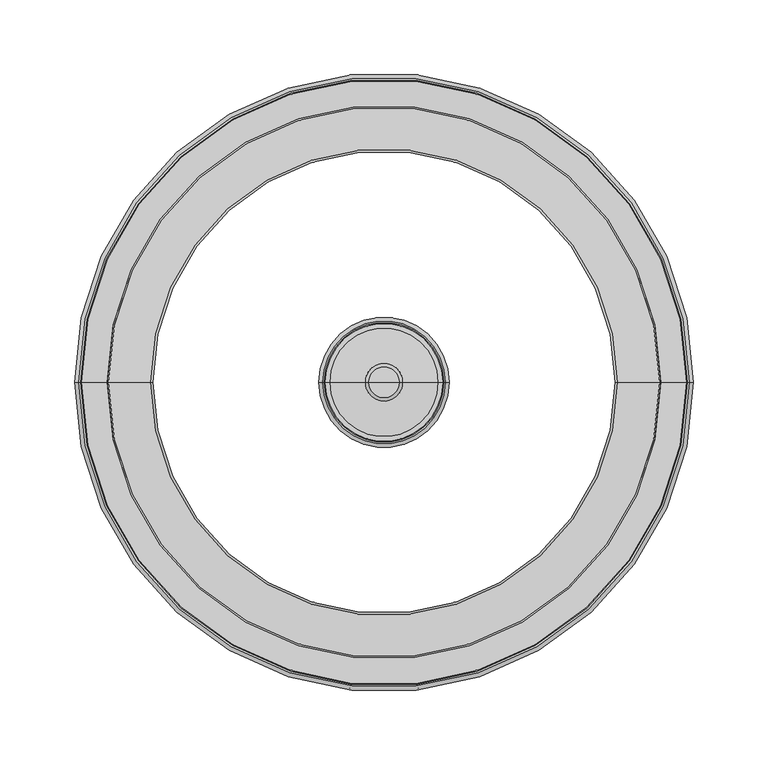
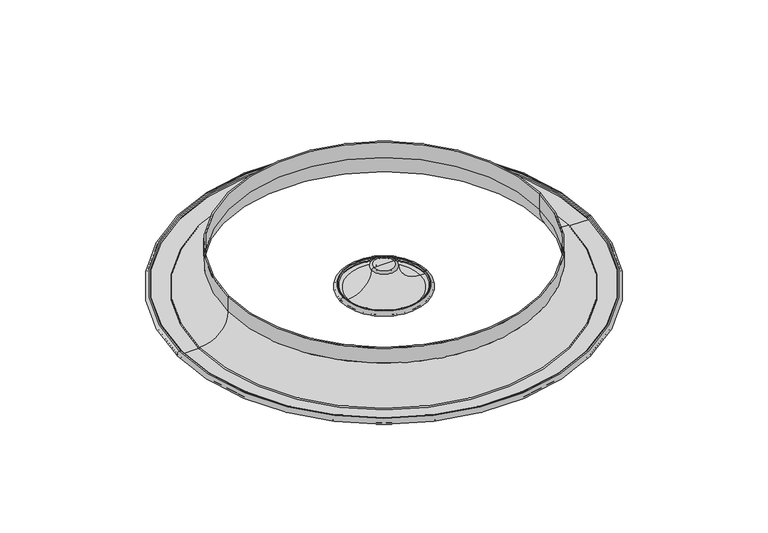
"""IFC4 building model written with IfcOpenShell, lengths in millimetres: air terminal geometry, AI_Bouche aération_Circulaire Reprise : ø315 mm."""

from ifc_helpers import new_model, si_unit, point, frame, origin, origin_with_axes, place, context, project, spatial, polyline, circle_curve, ellipse_curve, trimmed, source, transform, mapped, element, save
from ifc_brep_helpers import plane_surface, cylinder_surface, revolved_surface, advanced_brep


def air_terminal_8d4f6053(model_context):
    return source(origin(), model_context, "Body", "AdvancedBrep", [
        advanced_brep(
        [(-41.27, 0.0, -5.5), (41.27, 0.0, -5.5), (36.5, 0.0, -5.5), (-36.5, 0.0, -5.5), (-41.27, 0.0, -0.7), (41.27, 0.0, -0.7), (-40.27, 0.0, -0.7), (40.27, 0.0, -0.7), (-40.27, 0.0, -2.0), (40.27, 0.0, -2.0), (-41.27, 0.0, -2.0), (41.27, 0.0, -2.0), (-41.27, 0.0, -4.2), (41.27, 0.0, -4.2), (-36.5, 0.0, -4.2), (36.5, 0.0, -4.2), (-12.6975243, 0.0, 18.1451243), (12.6975243, 0.0, 18.1451243), (-10.4021074, 0.0, 20.3), (10.4021074, 0.0, 20.3), (0.0, 0.0, 20.3), (-5.8512508, 0.0, 14.3598455), (5.8512508, 0.0, 14.3598455), (0.0, 0.0, 14.3598455), (-6.85, 0.0, 15.3098455), (6.85, 0.0, 15.3098455), (-6.85, 0.0, 19.0), (6.85, 0.0, 19.0), (-10.4021074, 0.0, 19.0), (10.4021074, 0.0, 19.0), (-11.4001147, 0.0, 18.0630975), (11.4001147, 0.0, 18.0630975)],
        [
            (0, 1, circle_curve(frame((0.0, 0.0, -5.5), z_axis=(0.0, 0.0, -1.0), x_axis=(1.0, 0.0, 0.0)), 41.27)),
            (1, 2),
            (2, 3, circle_curve(frame((0.0, 0.0, -5.5), z_axis=(0.0, 0.0, 1.0), x_axis=(1.0, 0.0, 0.0)), 36.5)),
            (3, 0),
            (1, 0, circle_curve(frame((0.0, 0.0, -5.5), z_axis=(0.0, 0.0, -1.0), x_axis=(1.0, 0.0, 0.0)), 41.27)),
            (3, 2, circle_curve(frame((0.0, 0.0, -5.5), z_axis=(0.0, 0.0, 1.0), x_axis=(1.0, 0.0, 0.0)), 36.5)),
            (4, 5, circle_curve(frame((0.0, 0.0, -0.7), z_axis=(0.0, 0.0, -1.0), x_axis=(1.0, 0.0, 0.0)), 41.27)),
            (5, 1, circle_curve(frame((41.27, 0.0, -3.1), z_axis=(0.0, 1.0, 0.0), x_axis=(1.0, 0.0, 0.0)), 2.4)),
            (0, 4, circle_curve(frame((-41.27, 0.0, -3.1), z_axis=(0.0, 1.0, 0.0), x_axis=(-1.0, 0.0, 0.0)), 2.4)),
            (5, 4, circle_curve(frame((0.0, 0.0, -0.7), z_axis=(0.0, 0.0, -1.0), x_axis=(1.0, 0.0, 0.0)), 41.27)),
            (6, 7, circle_curve(frame((0.0, 0.0, -0.7), z_axis=(0.0, 0.0, -1.0), x_axis=(1.0, 0.0, 0.0)), 40.27)),
            (7, 5),
            (4, 6),
            (7, 6, circle_curve(frame((0.0, 0.0, -0.7), z_axis=(0.0, 0.0, -1.0), x_axis=(1.0, 0.0, 0.0)), 40.27)),
            (8, 9, circle_curve(frame((0.0, 0.0, -2.0), z_axis=(0.0, 0.0, -1.0), x_axis=(1.0, 0.0, 0.0)), 40.27)),
            (9, 7, circle_curve(frame((40.27, 0.0, -1.35), z_axis=(0.0, 1.0, 0.0), x_axis=(1.0, 0.0, 0.0)), 0.65)),
            (6, 8, circle_curve(frame((-40.27, 0.0, -1.35), z_axis=(0.0, 1.0, 0.0), x_axis=(-1.0, 0.0, 0.0)), 0.65)),
            (9, 8, circle_curve(frame((0.0, 0.0, -2.0), z_axis=(0.0, 0.0, -1.0), x_axis=(1.0, 0.0, 0.0)), 40.27)),
            (10, 11, circle_curve(frame((0.0, 0.0, -2.0), z_axis=(0.0, 0.0, -1.0), x_axis=(1.0, 0.0, 0.0)), 41.27)),
            (11, 9),
            (8, 10),
            (11, 10, circle_curve(frame((0.0, 0.0, -2.0), z_axis=(0.0, 0.0, -1.0), x_axis=(1.0, 0.0, 0.0)), 41.27)),
            (12, 13, circle_curve(frame((0.0, 0.0, -4.2), z_axis=(0.0, 0.0, -1.0), x_axis=(1.0, 0.0, 0.0)), 41.27)),
            (13, 11, circle_curve(frame((41.27, 0.0, -3.1), z_axis=(0.0, -1.0, 0.0), x_axis=(1.0, 0.0, 0.0)), 1.1)),
            (10, 12, circle_curve(frame((-41.27, 0.0, -3.1), z_axis=(0.0, -1.0, 0.0), x_axis=(-1.0, 0.0, 0.0)), 1.1)),
            (13, 12, circle_curve(frame((0.0, 0.0, -4.2), z_axis=(0.0, 0.0, -1.0), x_axis=(1.0, 0.0, 0.0)), 41.27)),
            (14, 15, circle_curve(frame((0.0, 0.0, -4.2), z_axis=(0.0, 0.0, -1.0), x_axis=(1.0, 0.0, 0.0)), 36.5)),
            (15, 13),
            (12, 14),
            (15, 14, circle_curve(frame((0.0, 0.0, -4.2), z_axis=(0.0, 0.0, -1.0), x_axis=(1.0, 0.0, 0.0)), 36.5)),
            (16, 17, circle_curve(frame((0.0, 0.0, 18.1451243), z_axis=(0.0, 0.0, -1.0), x_axis=(1.0, 0.0, 0.0)), 12.6975243)),
            (17, 15, circle_curve(frame((36.5, 0.0, 19.65), z_axis=(0.0, -1.0, 0.0), x_axis=(1.0, 0.0, 0.0)), 23.85)),
            (14, 16, circle_curve(frame((-36.5, 0.0, 19.65), z_axis=(0.0, -1.0, 0.0), x_axis=(-1.0, 0.0, 0.0)), 23.85)),
            (17, 16, circle_curve(frame((0.0, 0.0, 18.1451243), z_axis=(0.0, 0.0, -1.0), x_axis=(1.0, 0.0, 0.0)), 12.6975243)),
            (18, 19, circle_curve(frame((0.0, 0.0, 20.3), z_axis=(0.0, 0.0, -1.0), x_axis=(1.0, 0.0, 0.0)), 10.4021074)),
            (19, 17, circle_curve(frame((10.4021074, 0.0, 18.0), z_axis=(0.0, 1.0, 0.0), x_axis=(1.0, 0.0, 0.0)), 2.3)),
            (16, 18, circle_curve(frame((-10.4021074, 0.0, 18.0), z_axis=(0.0, 1.0, 0.0), x_axis=(-1.0, 0.0, 0.0)), 2.3)),
            (19, 18, circle_curve(frame((0.0, 0.0, 20.3), z_axis=(0.0, 0.0, -1.0), x_axis=(1.0, 0.0, 0.0)), 10.4021074)),
            (20, 19),
            (18, 20),
            (21, 22, circle_curve(frame((0.0, 0.0, 14.3598455), z_axis=(0.0, 0.0, -1.0), x_axis=(1.0, 0.0, 0.0)), 5.8512508)),
            (22, 23),
            (23, 21),
            (22, 21, circle_curve(frame((0.0, 0.0, 14.3598455), z_axis=(0.0, 0.0, -1.0), x_axis=(1.0, 0.0, 0.0)), 5.8512508)),
            (24, 25, circle_curve(frame((0.0, 0.0, 15.3098455), z_axis=(0.0, 0.0, -1.0), x_axis=(1.0, 0.0, 0.0)), 6.85)),
            (25, 22, circle_curve(frame((5.8512508, 0.0, 15.3598455), z_axis=(0.0, 1.0, 0.0), x_axis=(1.0, 0.0, 0.0)), 1.0)),
            (21, 24, circle_curve(frame((-5.8512508, 0.0, 15.3598455), z_axis=(0.0, 1.0, 0.0), x_axis=(-1.0, 0.0, 0.0)), 1.0)),
            (25, 24, circle_curve(frame((0.0, 0.0, 15.3098455), z_axis=(0.0, 0.0, -1.0), x_axis=(1.0, 0.0, 0.0)), 6.85)),
            (26, 27, circle_curve(frame((0.0, 0.0, 19.0), z_axis=(0.0, 0.0, -1.0), x_axis=(1.0, 0.0, 0.0)), 6.85)),
            (27, 25),
            (24, 26),
            (27, 26, circle_curve(frame((0.0, 0.0, 19.0), z_axis=(0.0, 0.0, -1.0), x_axis=(1.0, 0.0, 0.0)), 6.85)),
            (28, 29, circle_curve(frame((0.0, 0.0, 19.0), z_axis=(0.0, 0.0, -1.0), x_axis=(1.0, 0.0, 0.0)), 10.4021074)),
            (29, 27),
            (26, 28),
            (29, 28, circle_curve(frame((0.0, 0.0, 19.0), z_axis=(0.0, 0.0, -1.0), x_axis=(1.0, 0.0, 0.0)), 10.4021074)),
            (30, 31, circle_curve(frame((0.0, 0.0, 18.0630975), z_axis=(0.0, 0.0, -1.0), x_axis=(1.0, 0.0, 0.0)), 11.4001147)),
            (31, 29, circle_curve(frame((10.4021074, 0.0, 18.0), z_axis=(0.0, -1.0, 0.0), x_axis=(1.0, 0.0, 0.0)), 1.0)),
            (28, 30, circle_curve(frame((-10.4021074, 0.0, 18.0), z_axis=(0.0, -1.0, 0.0), x_axis=(-1.0, 0.0, 0.0)), 1.0)),
            (31, 30, circle_curve(frame((0.0, 0.0, 18.0630975), z_axis=(0.0, 0.0, -1.0), x_axis=(1.0, 0.0, 0.0)), 11.4001147)),
            (2, 31, circle_curve(frame((36.5, 0.0, 19.65), z_axis=(0.0, 1.0, 0.0), x_axis=(1.0, 0.0, 0.0)), 25.15)),
            (30, 3, circle_curve(frame((-36.5, 0.0, 19.65), z_axis=(0.0, 1.0, 0.0), x_axis=(-1.0, 0.0, 0.0)), 25.15)),
        ],
        [
            plane_surface(frame((0.0, 0.0, -5.5), z_axis=(0.0, 0.0, -1.0), x_axis=(1.0, 0.0, 0.0))),
            revolved_surface(trimmed(ellipse_curve(frame((41.27, 0.0, -3.1), z_axis=(0.0, -1.0, 0.0), x_axis=(1.0, 0.0, 0.0)), 2.4, 2.4), [point((41.27, 0.0, -5.5))], [point((41.27, 0.0, -0.7))], True, "CARTESIAN"), (0.0, 0.0, 1789.7688894), (0.0, 0.0, 1.0)),
            plane_surface(frame((0.0, 0.0, -0.7), z_axis=(0.0, 0.0, 1.0), x_axis=(1.0, 0.0, 0.0))),
            revolved_surface(trimmed(ellipse_curve(frame((40.27, 0.0, -1.35), z_axis=(0.0, -1.0, 0.0), x_axis=(1.0, 0.0, 0.0)), 0.65, 0.65), [point((40.27, 0.0, -0.7))], [point((40.27, 0.0, -2.0))], True, "CARTESIAN"), (0.0, 0.0, 1789.7688894), (0.0, 0.0, 1.0)),
            plane_surface(frame((0.0, 0.0, -2.0), z_axis=(0.0, 0.0, -1.0), x_axis=(1.0, 0.0, 0.0))),
            revolved_surface(trimmed(ellipse_curve(frame((41.27, 0.0, -3.1), z_axis=(0.0, 1.0, 0.0), x_axis=(1.0, 0.0, 0.0)), 1.1, 1.1), [point((41.27, 0.0, -2.0))], [point((41.27, 0.0, -4.2))], True, "CARTESIAN"), (0.0, 0.0, 1789.7688894), (0.0, 0.0, 1.0)),
            plane_surface(frame((0.0, 0.0, -4.2), z_axis=(0.0, 0.0, 1.0), x_axis=(1.0, 0.0, 0.0))),
            revolved_surface(trimmed(ellipse_curve(frame((36.5, 0.0, 19.65), z_axis=(0.0, 1.0, 0.0), x_axis=(1.0, 0.0, 0.0)), 23.85, 23.85), [point((36.5, 0.0, -4.2))], [point((12.6975243, 0.0, 18.1451243))], True, "CARTESIAN"), (0.0, 0.0, 1789.7688894), (0.0, 0.0, 1.0)),
            revolved_surface(trimmed(ellipse_curve(frame((10.4021074, 0.0, 18.0), z_axis=(0.0, -1.0, 0.0), x_axis=(1.0, 0.0, 0.0)), 2.3, 2.3), [point((12.6975243, 0.0, 18.1451243))], [point((10.4021074, 0.0, 20.3))], True, "CARTESIAN"), (0.0, 0.0, 1789.7688894), (0.0, 0.0, 1.0)),
            plane_surface(frame((0.0, 0.0, 20.3), z_axis=(0.0, 0.0, 1.0), x_axis=(1.0, 0.0, 0.0))),
            plane_surface(frame((0.0, 0.0, 14.3598455), z_axis=(0.0, 0.0, -1.0), x_axis=(1.0, 0.0, 0.0))),
            revolved_surface(trimmed(ellipse_curve(frame((5.8512508, 0.0, 15.3598455), z_axis=(0.0, -1.0, 0.0), x_axis=(1.0, 0.0, 0.0)), 1.0, 1.0), [point((5.8512508, 0.0, 14.3598455))], [point((6.85, 0.0, 15.3098455))], True, "CARTESIAN"), (0.0, 0.0, 1789.7688894), (0.0, 0.0, 1.0)),
            cylinder_surface(frame((0.0, 0.0, 1789.7688894), z_axis=(0.0, 0.0, 1.0), x_axis=(1.0, 0.0, 0.0)), 6.85),
            plane_surface(frame((0.0, 0.0, 19.0), z_axis=(0.0, 0.0, -1.0), x_axis=(1.0, 0.0, 0.0))),
            revolved_surface(trimmed(ellipse_curve(frame((10.4021074, 0.0, 18.0), z_axis=(0.0, 1.0, 0.0), x_axis=(1.0, 0.0, 0.0)), 1.0, 1.0), [point((10.4021074, 0.0, 19.0))], [point((11.4001147, 0.0, 18.0630975))], True, "CARTESIAN"), (0.0, 0.0, 1789.7688894), (0.0, 0.0, 1.0)),
            revolved_surface(trimmed(ellipse_curve(frame((36.5, 0.0, 19.65), z_axis=(0.0, -1.0, 0.0), x_axis=(1.0, 0.0, 0.0)), 25.15, 25.15), [point((11.4001147, 0.0, 18.0630975))], [point((36.5, 0.0, -5.5))], True, "CARTESIAN"), (0.0, 0.0, 1789.7688894), (0.0, 0.0, 1.0)),
        ],
        [
            (0, [[1, 2, 3, 4]]),
            (0, [[5, -4, 6, -2]]),
            (1, [[7, 8, -1, 9]]),
            (1, [[10, -9, -5, -8]]),
            (2, [[11, 12, -7, 13]]),
            (2, [[14, -13, -10, -12]]),
            (3, [[15, 16, -11, 17]]),
            (3, [[18, -17, -14, -16]]),
            (4, [[19, 20, -15, 21]]),
            (4, [[22, -21, -18, -20]]),
            (5, [[23, 24, -19, 25]]),
            (5, [[26, -25, -22, -24]]),
            (6, [[27, 28, -23, 29]]),
            (6, [[30, -29, -26, -28]]),
            (7, [[31, 32, -27, 33]]),
            (7, [[34, -33, -30, -32]]),
            (8, [[35, 36, -31, 37]]),
            (8, [[38, -37, -34, -36]]),
            (9, [[39, -35, 40]]),
            (9, [[-40, -38, -39]]),
            (10, [[41, 42, 43]]),
            (10, [[44, -43, -42]]),
            (11, [[45, 46, -41, 47]]),
            (11, [[48, -47, -44, -46]]),
            (12, [[49, 50, -45, 51]]),
            (12, [[52, -51, -48, -50]]),
            (13, [[53, 54, -49, 55]]),
            (13, [[56, -55, -52, -54]]),
            (14, [[57, 58, -53, 59]]),
            (14, [[60, -59, -56, -58]]),
            (15, [[-3, 61, -57, 62]]),
            (15, [[-6, -62, -60, -61]]),
        ],
    ),
        advanced_brep(
        [(-203.75, 0.0, 0.0), (203.75, 0.0, 0.0), (204.75, 0.0, 0.0), (-204.75, 0.0, 0.0), (-203.75, 0.0, -1.2999996), (203.75, 0.0, -1.2999996), (-204.75, 0.0, -1.2999996), (204.75, 0.0, -1.2999996), (-204.75, 0.0, -4.1991736), (204.75, 0.0, -4.1991736), (-185.8001846, 0.0, -4.1991736), (185.8001846, 0.0, -4.1991736), (-184.7992909, 0.0, -3.1982799), (184.7992909, 0.0, -3.1982799), (-156.5, 0.0, 24.8756082), (156.5, 0.0, 24.8756082), (-155.2, 0.0, 40.5), (155.2, 0.0, 40.5), (156.5, 0.0, 40.5), (-156.5, 0.0, 40.5), (-155.2, 0.0, 24.4500004), (155.2, 0.0, 24.4500004), (-182.5550919, 0.0, -4.456033), (182.5550919, 0.0, -4.456033), (-183.2590454, 0.0, -4.8034763), (183.2590454, 0.0, -4.8034763), (-184.7759333, 0.0, -5.5), (184.7759333, 0.0, -5.5), (-204.75, 0.0, -5.5), (204.75, 0.0, -5.5)],
        [
            (0, 1, circle_curve(frame((0.0, 0.0, 0.0), z_axis=(0.0, 0.0, -1.0), x_axis=(1.0, 0.0, 0.0)), 203.75)),
            (1, 2),
            (2, 3, circle_curve(origin_with_axes(), 204.75)),
            (3, 0),
            (1, 0, circle_curve(frame((0.0, 0.0, 0.0), z_axis=(0.0, 0.0, -1.0), x_axis=(1.0, 0.0, 0.0)), 203.75)),
            (3, 2, circle_curve(origin_with_axes(), 204.75)),
            (4, 5, circle_curve(frame((0.0, 0.0, -1.2999996), z_axis=(0.0, 0.0, -1.0), x_axis=(1.0, 0.0, 0.0)), 203.75)),
            (5, 1, circle_curve(frame((203.75, 0.0, -0.6499998), z_axis=(0.0, 1.0, 0.0), x_axis=(1.0, 0.0, 0.0)), 0.6499998)),
            (0, 4, circle_curve(frame((-203.75, 0.0, -0.6499998), z_axis=(0.0, 1.0, 0.0), x_axis=(-1.0, 0.0, 0.0)), 0.6499998)),
            (5, 4, circle_curve(frame((0.0, 0.0, -1.2999996), z_axis=(0.0, 0.0, -1.0), x_axis=(1.0, 0.0, 0.0)), 203.75)),
            (6, 7, circle_curve(frame((0.0, 0.0, -1.2999996), z_axis=(0.0, 0.0, -1.0), x_axis=(1.0, 0.0, 0.0)), 204.75)),
            (7, 5),
            (4, 6),
            (7, 6, circle_curve(frame((0.0, 0.0, -1.2999996), z_axis=(0.0, 0.0, -1.0), x_axis=(1.0, 0.0, 0.0)), 204.75)),
            (8, 9, circle_curve(frame((0.0, 0.0, -4.1991736), z_axis=(0.0, 0.0, -1.0), x_axis=(1.0, 0.0, 0.0)), 204.75)),
            (9, 7, circle_curve(frame((204.75, 0.0, -2.7495866), z_axis=(0.0, -1.0, 0.0), x_axis=(1.0, 0.0, 0.0)), 1.449587)),
            (6, 8, circle_curve(frame((-204.75, 0.0, -2.7495866), z_axis=(0.0, -1.0, 0.0), x_axis=(-1.0, 0.0, 0.0)), 1.449587)),
            (9, 8, circle_curve(frame((0.0, 0.0, -4.1991736), z_axis=(0.0, 0.0, -1.0), x_axis=(1.0, 0.0, 0.0)), 204.75)),
            (10, 11, circle_curve(frame((0.0, 0.0, -4.1991736), z_axis=(0.0, 0.0, -1.0), x_axis=(1.0, 0.0, 0.0)), 185.8001846)),
            (11, 9),
            (8, 10),
            (11, 10, circle_curve(frame((0.0, 0.0, -4.1991736), z_axis=(0.0, 0.0, -1.0), x_axis=(1.0, 0.0, 0.0)), 185.8001846)),
            (12, 13, circle_curve(frame((0.0, 0.0, -3.1982799), z_axis=(0.0, 0.0, -1.0), x_axis=(1.0, 0.0, 0.0)), 184.7992909)),
            (13, 11, circle_curve(frame((185.8001846, 0.0, -3.1982799), z_axis=(0.0, -1.0, 0.0), x_axis=(1.0, 0.0, 0.0)), 1.0008937)),
            (10, 12, circle_curve(frame((-185.8001846, 0.0, -3.1982799), z_axis=(0.0, -1.0, 0.0), x_axis=(-1.0, 0.0, 0.0)), 1.0008937)),
            (13, 12, circle_curve(frame((0.0, 0.0, -3.1982799), z_axis=(0.0, 0.0, -1.0), x_axis=(1.0, 0.0, 0.0)), 184.7992909)),
            (14, 15, circle_curve(frame((0.0, 0.0, 24.8756082), z_axis=(0.0, 0.0, -1.0), x_axis=(1.0, 0.0, 0.0)), 156.5)),
            (15, 13, circle_curve(frame((184.1496309, 0.0, 24.4470397), z_axis=(0.0, -1.0, 0.0), x_axis=(1.0, 0.0, 0.0)), 27.6529521)),
            (12, 14, circle_curve(frame((-184.1496309, 0.0, 24.4470397), z_axis=(0.0, -1.0, 0.0), x_axis=(-1.0, 0.0, 0.0)), 27.6529521)),
            (15, 14, circle_curve(frame((0.0, 0.0, 24.8756082), z_axis=(0.0, 0.0, -1.0), x_axis=(1.0, 0.0, 0.0)), 156.5)),
            (16, 17, circle_curve(frame((0.0, 0.0, 40.5), z_axis=(0.0, 0.0, -1.0), x_axis=(1.0, 0.0, 0.0)), 155.2)),
            (17, 18, circle_curve(frame((155.85, 0.0, 40.5), z_axis=(0.0, 1.0, 0.0), x_axis=(1.0, 0.0, 0.0)), 0.65)),
            (18, 19, circle_curve(frame((0.0, 0.0, 40.5), z_axis=(0.0, 0.0, 1.0), x_axis=(1.0, 0.0, 0.0)), 156.5)),
            (19, 16, circle_curve(frame((-155.85, 0.0, 40.5), z_axis=(0.0, 1.0, 0.0), x_axis=(-1.0, 0.0, 0.0)), 0.65)),
            (17, 16, circle_curve(frame((0.0, 0.0, 40.5), z_axis=(0.0, 0.0, -1.0), x_axis=(1.0, 0.0, 0.0)), 155.2)),
            (19, 18, circle_curve(frame((0.0, 0.0, 40.5), z_axis=(0.0, 0.0, 1.0), x_axis=(1.0, 0.0, 0.0)), 156.5)),
            (20, 21, circle_curve(frame((0.0, 0.0, 24.4500004), z_axis=(0.0, 0.0, -1.0), x_axis=(1.0, 0.0, 0.0)), 155.2)),
            (21, 17),
            (16, 20),
            (21, 20, circle_curve(frame((0.0, 0.0, 24.4500004), z_axis=(0.0, 0.0, -1.0), x_axis=(1.0, 0.0, 0.0)), 155.2)),
            (22, 23, circle_curve(frame((0.0, 0.0, -4.456033), z_axis=(0.0, 0.0, -1.0), x_axis=(1.0, 0.0, 0.0)), 182.5550919)),
            (23, 21, circle_curve(frame((184.15, 0.0, 24.4500004), z_axis=(0.0, 1.0, 0.0), x_axis=(1.0, 0.0, 0.0)), 28.95)),
            (20, 22, circle_curve(frame((-184.15, 0.0, 24.4500004), z_axis=(0.0, 1.0, 0.0), x_axis=(-1.0, 0.0, 0.0)), 28.95)),
            (23, 22, circle_curve(frame((0.0, 0.0, -4.456033), z_axis=(0.0, 0.0, -1.0), x_axis=(1.0, 0.0, 0.0)), 182.5550919)),
            (24, 25, circle_curve(frame((0.0, 0.0, -4.8034763), z_axis=(0.0, 0.0, -1.0), x_axis=(1.0, 0.0, 0.0)), 183.2590454)),
            (25, 23, circle_curve(frame((182.5, 0.0, -5.4545147), z_axis=(0.0, -1.0, 0.0), x_axis=(1.0, 0.0, 0.0)), 1.0000004)),
            (22, 24, circle_curve(frame((-182.5, 0.0, -5.4545147), z_axis=(0.0, -1.0, 0.0), x_axis=(-1.0, 0.0, 0.0)), 1.0000004)),
            (25, 24, circle_curve(frame((0.0, 0.0, -4.8034763), z_axis=(0.0, 0.0, -1.0), x_axis=(1.0, 0.0, 0.0)), 183.2590454)),
            (26, 27, circle_curve(frame((0.0, 0.0, -5.5), z_axis=(0.0, 0.0, -1.0), x_axis=(1.0, 0.0, 0.0)), 184.7759333)),
            (27, 25, circle_curve(frame((184.7759333, 0.0, -3.5000004), z_axis=(0.0, 1.0, 0.0), x_axis=(1.0, 0.0, 0.0)), 1.9999996)),
            (24, 26, circle_curve(frame((-184.7759333, 0.0, -3.5000004), z_axis=(0.0, 1.0, 0.0), x_axis=(-1.0, 0.0, 0.0)), 1.9999996)),
            (27, 26, circle_curve(frame((0.0, 0.0, -5.5), z_axis=(0.0, 0.0, -1.0), x_axis=(1.0, 0.0, 0.0)), 184.7759333)),
            (28, 29, circle_curve(frame((0.0, 0.0, -5.5), z_axis=(0.0, 0.0, -1.0), x_axis=(1.0, 0.0, 0.0)), 204.75)),
            (29, 27),
            (26, 28),
            (29, 28, circle_curve(frame((0.0, 0.0, -5.5), z_axis=(0.0, 0.0, -1.0), x_axis=(1.0, 0.0, 0.0)), 204.75)),
            (2, 29, circle_curve(frame((204.75, 0.0, -2.75), z_axis=(0.0, 1.0, 0.0), x_axis=(1.0, 0.0, 0.0)), 2.75)),
            (28, 3, circle_curve(frame((-204.75, 0.0, -2.75), z_axis=(0.0, 1.0, 0.0), x_axis=(-1.0, 0.0, 0.0)), 2.75)),
            (18, 15),
            (14, 19),
        ],
        [
            plane_surface(origin_with_axes()),
            revolved_surface(trimmed(ellipse_curve(frame((203.75, 0.0, -0.6499998), z_axis=(0.0, -1.0, 0.0), x_axis=(1.0, 0.0, 0.0)), 0.6499998, 0.6499998), [point((203.75, 0.0, 0.0))], [point((203.75, 0.0, -1.2999996))], True, "CARTESIAN"), (0.0, 0.0, 1789.7688894), (0.0, 0.0, 1.0)),
            plane_surface(frame((0.0, 0.0, -1.2999996), z_axis=(0.0, 0.0, -1.0), x_axis=(1.0, 0.0, 0.0))),
            revolved_surface(trimmed(ellipse_curve(frame((204.75, 0.0, -2.7495866), z_axis=(0.0, 1.0, 0.0), x_axis=(1.0, 0.0, 0.0)), 1.449587, 1.449587), [point((204.75, 0.0, -1.2999996))], [point((204.75, 0.0, -4.1991736))], True, "CARTESIAN"), (0.0, 0.0, 1789.7688894), (0.0, 0.0, 1.0)),
            plane_surface(frame((0.0, 0.0, -4.1991736), z_axis=(0.0, 0.0, 1.0), x_axis=(1.0, 0.0, 0.0))),
            revolved_surface(trimmed(ellipse_curve(frame((185.8001846, 0.0, -3.1982799), z_axis=(0.0, 1.0, 0.0), x_axis=(1.0, 0.0, 0.0)), 1.0008937, 1.0008937), [point((185.8001846, 0.0, -4.1991736))], [point((184.7992909, 0.0, -3.1982799))], True, "CARTESIAN"), (0.0, 0.0, 1789.7688894), (0.0, 0.0, 1.0)),
            revolved_surface(trimmed(ellipse_curve(frame((184.1496309, 0.0, 24.4470397), z_axis=(0.0, 1.0, 0.0), x_axis=(1.0, 0.0, 0.0)), 27.6529521, 27.6529521), [point((184.7992909, 0.0, -3.1982799))], [point((156.5, 0.0, 24.8756082))], True, "CARTESIAN"), (0.0, 0.0, 1789.7688894), (0.0, 0.0, 1.0)),
            revolved_surface(trimmed(ellipse_curve(frame((155.85, 0.0, 40.5), z_axis=(0.0, -1.0, 0.0), x_axis=(1.0, 0.0, 0.0)), 0.65, 0.65), [point((156.5, 0.0, 40.5))], [point((155.2, 0.0, 40.5))], True, "CARTESIAN"), (0.0, 0.0, 1789.7688894), (0.0, 0.0, 1.0)),
            revolved_surface(polyline([(155.2, 0.0, 40.5), (155.2, 0.0, 24.450000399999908)]), (0.0, 0.0, 1789.7688894), (0.0, 0.0, 1.0)),
            revolved_surface(trimmed(ellipse_curve(frame((184.15, 0.0, 24.4500004), z_axis=(0.0, -1.0, 0.0), x_axis=(1.0, 0.0, 0.0)), 28.95, 28.95), [point((155.2, 0.0, 24.4500004))], [point((182.5550919, 0.0, -4.456033))], True, "CARTESIAN"), (0.0, 0.0, 1789.7688894), (0.0, 0.0, 1.0)),
            revolved_surface(trimmed(ellipse_curve(frame((182.5, 0.0, -5.4545147), z_axis=(0.0, 1.0, 0.0), x_axis=(1.0, 0.0, 0.0)), 1.0000004, 1.0000004), [point((182.5550919, 0.0, -4.456033))], [point((183.2590454, 0.0, -4.8034763))], True, "CARTESIAN"), (0.0, 0.0, 1789.7688894), (0.0, 0.0, 1.0)),
            revolved_surface(trimmed(ellipse_curve(frame((184.7759333, 0.0, -3.5000004), z_axis=(0.0, -1.0, 0.0), x_axis=(1.0, 0.0, 0.0)), 1.9999996, 1.9999996), [point((183.2590454, 0.0, -4.8034763))], [point((184.7759333, 0.0, -5.5))], True, "CARTESIAN"), (0.0, 0.0, 1789.7688894), (0.0, 0.0, 1.0)),
            plane_surface(frame((0.0, 0.0, -5.5), z_axis=(0.0, 0.0, -1.0), x_axis=(1.0, 0.0, 0.0))),
            revolved_surface(trimmed(ellipse_curve(frame((204.75, 0.0, -2.75), z_axis=(0.0, -1.0, 0.0), x_axis=(1.0, 0.0, 0.0)), 2.75, 2.75), [point((204.75, 0.0, -5.5))], [point((204.75, 0.0, 0.0))], True, "CARTESIAN"), (0.0, 0.0, 1789.7688894), (0.0, 0.0, 1.0)),
            cylinder_surface(frame((0.0, 0.0, 1789.7688894), z_axis=(0.0, 0.0, 1.0), x_axis=(1.0, 0.0, 0.0)), 156.5),
        ],
        [
            (0, [[1, 2, 3, 4]]),
            (0, [[5, -4, 6, -2]]),
            (1, [[7, 8, -1, 9]]),
            (1, [[10, -9, -5, -8]]),
            (2, [[11, 12, -7, 13]]),
            (2, [[14, -13, -10, -12]]),
            (3, [[15, 16, -11, 17]]),
            (3, [[18, -17, -14, -16]]),
            (4, [[19, 20, -15, 21]]),
            (4, [[22, -21, -18, -20]]),
            (5, [[23, 24, -19, 25]]),
            (5, [[26, -25, -22, -24]]),
            (6, [[27, 28, -23, 29]]),
            (6, [[30, -29, -26, -28]]),
            (7, [[31, 32, 33, 34]]),
            (7, [[35, -34, 36, -32]]),
            (8, [[37, 38, -31, 39]]),
            (8, [[40, -39, -35, -38]]),
            (9, [[41, 42, -37, 43]]),
            (9, [[44, -43, -40, -42]]),
            (10, [[45, 46, -41, 47]]),
            (10, [[48, -47, -44, -46]]),
            (11, [[49, 50, -45, 51]]),
            (11, [[52, -51, -48, -50]]),
            (12, [[53, 54, -49, 55]]),
            (12, [[56, -55, -52, -54]]),
            (13, [[-3, 57, -53, 58]]),
            (13, [[-6, -58, -56, -57]]),
            (14, [[-33, 59, -27, 60]]),
            (14, [[-36, -60, -30, -59]]),
        ],
    ),
    ])


if __name__ == "__main__":
    model = new_model("IFC4")
    model_context = context("Model", 3, world=origin())
    ifc_project = project(units=[si_unit("LENGTHUNIT", "METRE", prefix="MILLI")], contexts=[model_context])
    site = spatial("IfcSite", under=ifc_project)
    building = spatial("IfcBuilding", under=site)
    placement = place(None, origin())
    air_terminal_shape = air_terminal_8d4f6053(model_context)
    element("IfcAirTerminal", 1, ObjectType="AI_Bouche aération_Circulaire Reprise : ø315 mm", at=placement, inside=building, context=model_context, shape_type="MappedRepresentation", body=[
        mapped(air_terminal_shape, transform((0.0, 0.0, 0.0), x_axis=(1.0, 0.0, 0.0), y_axis=(0.0, 1.0, 0.0), z_axis=(0.0, 0.0, 1.0))),
    ])
    save(model, "model.ifc")
